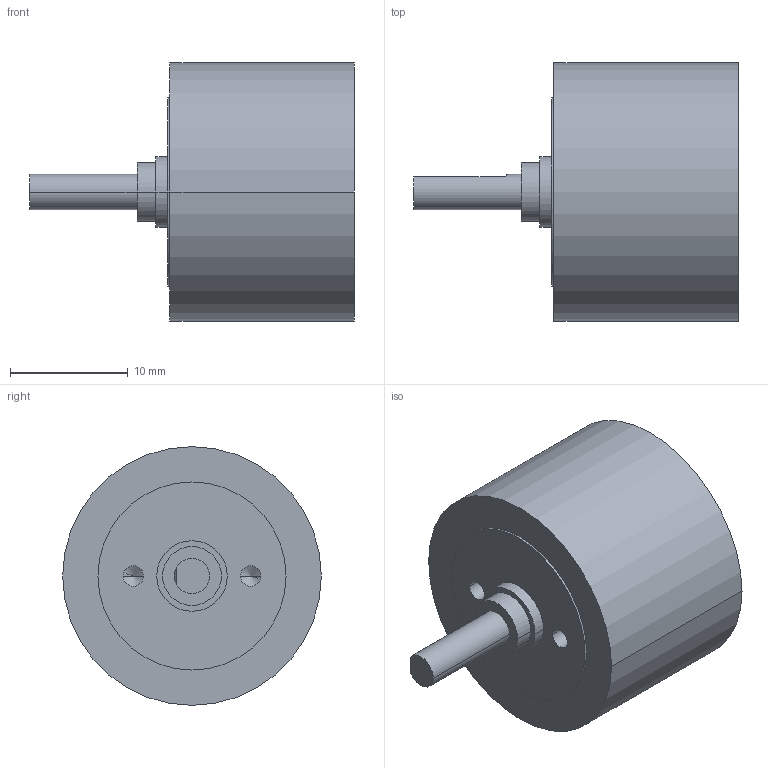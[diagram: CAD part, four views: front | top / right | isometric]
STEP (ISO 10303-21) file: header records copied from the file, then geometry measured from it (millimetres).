
FILE_DESCRIPTION((''),'2;1');
FILE_NAME('1682158','2016-10-04T',('mmagvisi'),(''),'CREO PARAMETRIC BY PTC INC, 2016050','CREO PARAMETRIC BY PTC INC, 2016050','');
FILE_SCHEMA(('CONFIG_CONTROL_DESIGN'));
Length unit declared in the file: millimetre
Products named in the file (1): 1682158
Bounding box: 27.65 x 22 x 22 mm (x, y, z)
Volume: 5302.2 mm3; surface area: 2204 mm2
Topology: 1 solids, 1 shells, 32 faces, 68 edges, 42 vertices
Faces by surface type: cylinder 18, plane 10, cone 4
Entity records: 953 total; most frequent: DIRECTION 162, CARTESIAN_POINT 143, ORIENTED_EDGE 128, AXIS2_PLACEMENT_3D 68, EDGE_CURVE 64, COLOUR_RGB 58, VERTEX_POINT 42, EDGE_LOOP 40
